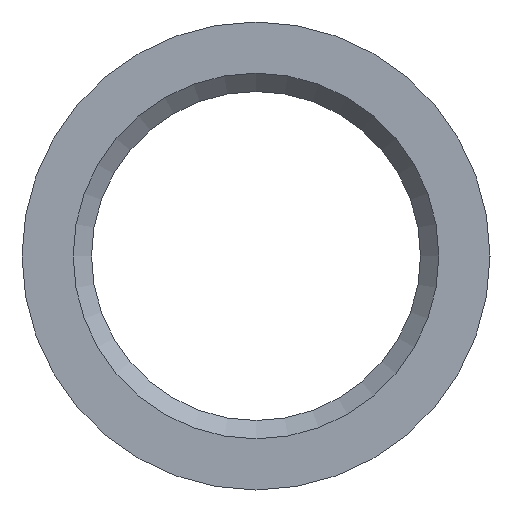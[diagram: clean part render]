
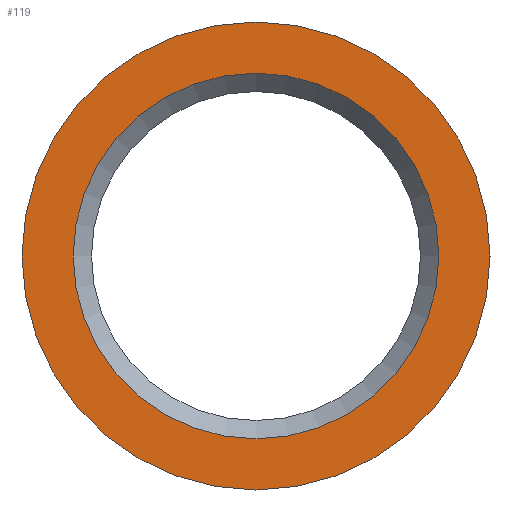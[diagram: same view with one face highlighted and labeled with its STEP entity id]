
A CAD part, left-side view. The second image highlights one B-rep face of the part: STEP entity #119.
In plain terms, the highlighted planar face has unit normal (-1, 0, 0).
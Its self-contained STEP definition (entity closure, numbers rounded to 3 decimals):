
#26=FACE_BOUND('',#51,.T.);
#36=FACE_OUTER_BOUND('',#50,.T.);
#50=EDGE_LOOP('',(#100));
#51=EDGE_LOOP('',(#101));
#66=CIRCLE('',#135,16.);
#67=CIRCLE('',#137,12.5);
#76=VERTEX_POINT('',#202);
#77=VERTEX_POINT('',#205);
#86=EDGE_CURVE('',#76,#76,#66,.T.);
#87=EDGE_CURVE('',#77,#77,#67,.T.);
#100=ORIENTED_EDGE('',*,*,#86,.T.);
#101=ORIENTED_EDGE('',*,*,#87,.F.);
#113=PLANE('',#136);
#119=ADVANCED_FACE('',(#36,#26),#113,.T.);
#135=AXIS2_PLACEMENT_3D('',#203,#165,#166);
#136=AXIS2_PLACEMENT_3D('',#204,#167,#168);
#137=AXIS2_PLACEMENT_3D('',#206,#169,#170);
#165=DIRECTION('center_axis',(-1.,0.,0.));
#166=DIRECTION('ref_axis',(0.,0.,1.));
#167=DIRECTION('center_axis',(-1.,0.,0.));
#168=DIRECTION('ref_axis',(0.,0.,1.));
#169=DIRECTION('center_axis',(-1.,0.,0.));
#170=DIRECTION('ref_axis',(0.,0.,1.));
#202=CARTESIAN_POINT('',(-25.,-16.,0.));
#203=CARTESIAN_POINT('Origin',(-25.,0.,0.));
#204=CARTESIAN_POINT('Origin',(-25.,-12.5,0.));
#205=CARTESIAN_POINT('',(-25.,-12.5,0.));
#206=CARTESIAN_POINT('Origin',(-25.,0.,0.));
